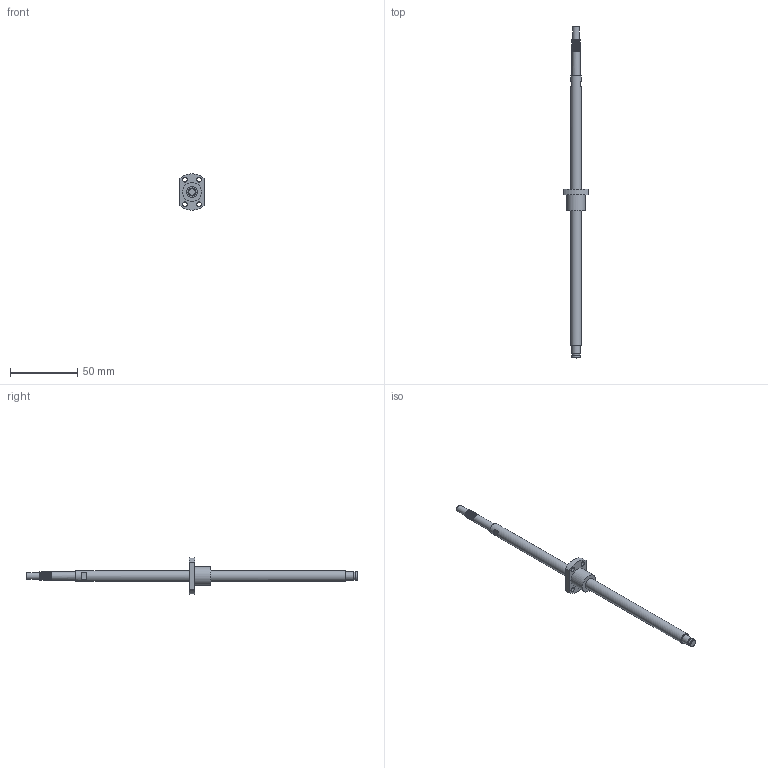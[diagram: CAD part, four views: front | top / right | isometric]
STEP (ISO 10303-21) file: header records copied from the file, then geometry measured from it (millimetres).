
FILE_DESCRIPTION(/* description */ (''),/* implementation_level */ '2;1');
FILE_NAME(/* name */ 'BSG26_asm1.stp',/* time_stamp */ '2017-01-06T13:27:39+08:00',/* author */ (''),/* organization */ (''),/* preprocessor_version */ 'ST-DEVELOPER v15',/* originating_system */ 'SIEMENS PLM Software NX 8.5',/* authorisation */ '');
FILE_SCHEMA (('AUTOMOTIVE_DESIGN { 1 0 10303 214 3 1 1 1 }'));
Length unit declared in the file: millimetre
Products named in the file (3): 01; BSG026; BSG26_asm1
Assembly tree (2 placements, depth 2):
  BSG26_asm1
    BSG026
    01
Bounding box: 18 x 246 x 26.91 mm (x, y, z)
Volume: 2677.5 mm3; surface area: 8184.4 mm2
Topology: 1 solids, 2 shells, 47 faces, 117 edges, 80 vertices
Faces by surface type: cylinder 23, plane 20, bspline 2, cone 2
Full cylindrical faces by diameter (mm): 3.5 x4, 5 x1, 5.7 x1, 6 x11, 8 x2, 14 x1
Entity records: 3579 total; most frequent: CARTESIAN_POINT 2718, DIRECTION 171, ORIENTED_EDGE 128, AXIS2_PLACEMENT_3D 76, EDGE_LOOP 71, EDGE_CURVE 64, FACE_BOUND 54, VERTEX_POINT 51
